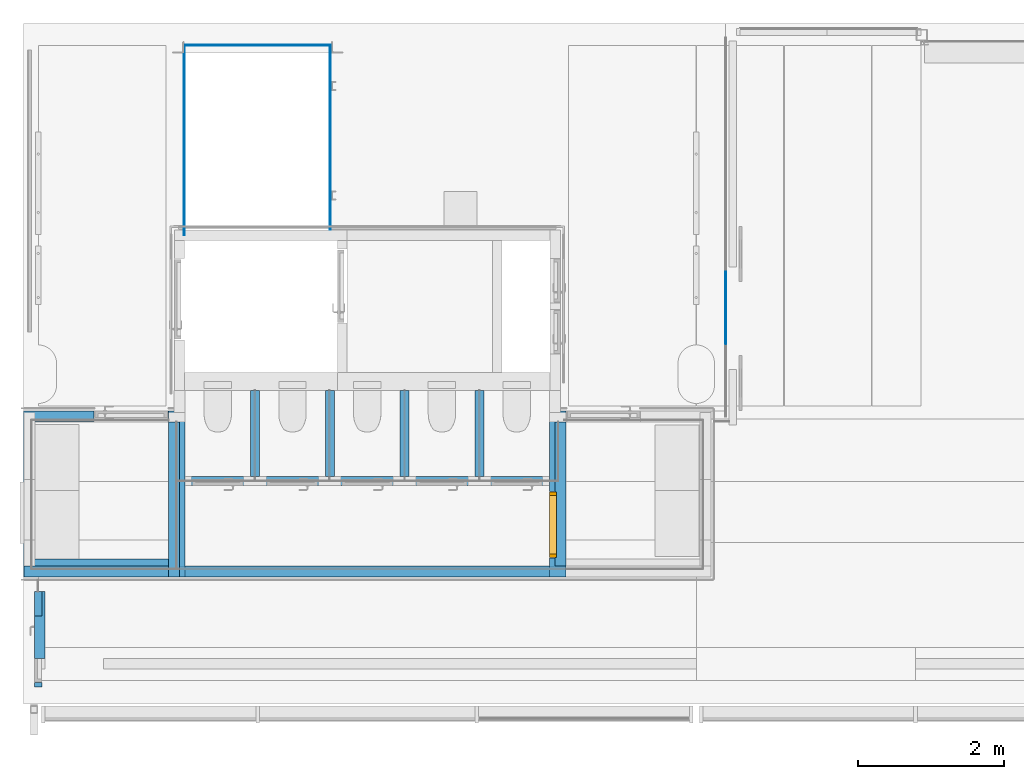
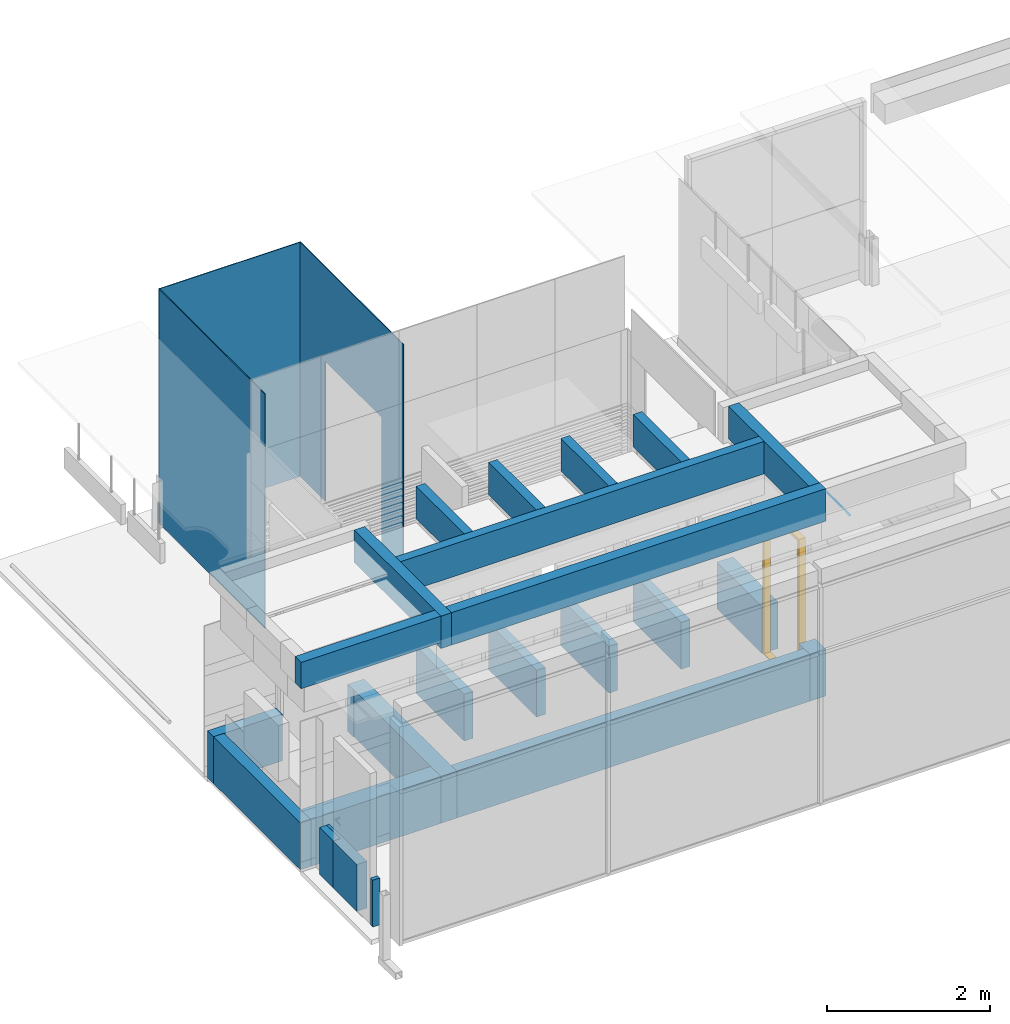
# One storey, part 14 of 26: 21 walls, 4 plates, 1 door, 4 openings, 4 elements without a shape of their own.
"""IFC2X3 building model written with IfcOpenShell, lengths in millimetres."""

import ifcopenshell
import ifcopenshell.guid

model = None  # the IFC model being written
_history = None  # IfcOwnerHistory: only IFC2X3 demands one
_inside = {}  # id of a spatial element -> (the spatial element, [elements in it])
_under = {}  # id of a project, library or spatial element -> (it, [spatial elements below it])
_declared = {}  # id of a project -> (the project, [libraries it declares])
_typed = {}  # id of a type object -> (the type object, [elements of that type])
_made_of = {}  # id of a material, layer set ... -> (it, [elements and type objects made of it])


def new_model(schema):
    """Start an empty IFC model of exactly this schema.

    Asked for "IFC4X3", IfcOpenShell would pick the latest addendum, in which some entities
    have other attributes; the version numbers below select the first issue.
    IFC2X3 requires an IfcOwnerHistory on every rooted entity: one is made here for all.
    """
    global model, _history
    if schema == "IFC4X3":
        model = ifcopenshell.file(schema_version=(4, 3, 0, 0))
    else:
        model = ifcopenshell.file(schema=schema)
    _inside.clear()
    _under.clear()
    _declared.clear()
    _typed.clear()
    _made_of.clear()
    _history = None
    if model.schema == "IFC2X3":
        org = make("IfcOrganization", Name="unknown")
        user = make(
            "IfcPersonAndOrganization",
            ThePerson=make("IfcPerson", FamilyName="unknown"),
            TheOrganization=org,
        )
        app = make(
            "IfcApplication",
            ApplicationDeveloper=org,
            Version="unknown",
            ApplicationFullName="unknown",
            ApplicationIdentifier="unknown",
        )
        _history = make(
            "IfcOwnerHistory",
            OwningUser=user,
            OwningApplication=app,
            ChangeAction="ADDED",
            CreationDate=0,
        )
    return model


def make(cls, **values):
    """One entity of the class cls with the attributes given. An attribute that is None is left unset."""
    return model.create_entity(
        cls, **{name: value for name, value in values.items() if value is not None}
    )


def entity(cls, *values):
    """Any entity or typed value of the class cls, its attributes in the order of the schema. None: left unset."""
    e = model.create_entity(cls)
    for i, value in enumerate(values):
        if value is not None:
            e[i] = value
    return e


def rooted(cls, **values):
    """An entity with a GlobalId (a new one), such as an element, a storey or a relation."""
    return make(cls, GlobalId=ifcopenshell.guid.new(), OwnerHistory=_history, **values)


def si_unit(unit_type, name, prefix=None):
    """IfcSIUnit, for example si_unit("LENGTHUNIT", "METRE", prefix="MILLI")."""
    return make("IfcSIUnit", UnitType=unit_type, Prefix=prefix, Name=name)


def converted_unit(unit_type, name, factor, base, dimensions=None, offset=None):
    """IfcConversionBasedUnit, such as the inch: factor (a typed value) times the base unit."""
    return make(
        "IfcConversionBasedUnit"
        if offset is None
        else "IfcConversionBasedUnitWithOffset",
        ConversionOffset=offset,
        Dimensions=None
        if dimensions is None
        else entity("IfcDimensionalExponents", *dimensions),
        UnitType=unit_type,
        Name=name,
        ConversionFactor=make(
            "IfcMeasureWithUnit", ValueComponent=factor, UnitComponent=base
        ),
    )


def derived_unit(unit_type, elements):
    """IfcDerivedUnit: a product of units, each with its exponent."""
    return make(
        "IfcDerivedUnit",
        Elements=[
            make("IfcDerivedUnitElement", Unit=unit, Exponent=power)
            for unit, power in elements
        ],
        UnitType=unit_type,
    )


def assignment(units):
    """IfcUnitAssignment: the units of a project."""
    return None if units is None else make("IfcUnitAssignment", Units=units)


def point(xyz):
    """IfcCartesianPoint."""
    return None if xyz is None else make("IfcCartesianPoint", Coordinates=xyz)


def direction(xyz):
    """IfcDirection."""
    return None if xyz is None else make("IfcDirection", DirectionRatios=xyz)


def frame(location, z_axis=None, x_axis=None):
    """IfcAxis2Placement3D, a coordinate frame: its origin and axes. An axis left out is left unset."""
    return make(
        "IfcAxis2Placement3D",
        Location=point(location),
        Axis=direction(z_axis),
        RefDirection=direction(x_axis),
    )


def frame_2d(location, x_axis=None):
    """IfcAxis2Placement2D, a coordinate frame in the plane: its origin and x axis."""
    return make(
        "IfcAxis2Placement2D", Location=point(location), RefDirection=direction(x_axis)
    )


def origin():
    """The frame at (0, 0, 0) with its axes left unset."""
    return frame((0.0, 0.0, 0.0))


def origin_with_axes():
    """The frame at (0, 0, 0) with the z axis (0, 0, 1) and the x axis (1, 0, 0) written out."""
    return frame((0.0, 0.0, 0.0), z_axis=(0.0, 0.0, 1.0), x_axis=(1.0, 0.0, 0.0))


def place(relative_to, where):
    """IfcLocalPlacement: puts the frame where relative to a parent placement (None: the world)."""
    return make(
        "IfcLocalPlacement", PlacementRelTo=relative_to, RelativePlacement=where
    )


def context(
    kind, dimensions, precision=None, world=None, true_north=None, identifier=None
):
    """IfcGeometricRepresentationContext, for example the 3D "Model" context."""
    return make(
        "IfcGeometricRepresentationContext",
        ContextIdentifier=identifier,
        ContextType=kind,
        CoordinateSpaceDimension=dimensions,
        Precision=precision,
        WorldCoordinateSystem=world,
        TrueNorth=true_north,
    )


def subcontext(parent, identifier, kind, view, scale=None):
    """IfcGeometricRepresentationSubContext, for example "Body" below "Model"."""
    return make(
        "IfcGeometricRepresentationSubContext",
        ContextIdentifier=identifier,
        ContextType=kind,
        ParentContext=parent,
        TargetScale=scale,
        TargetView=view,
    )


def project(units=None, contexts=None):
    """IfcProject with its units and contexts."""
    return rooted(
        "IfcProject",
        Name="project",
        RepresentationContexts=contexts,
        UnitsInContext=assignment(units),
    )


def spatial(cls, under=None, at=None, **own):
    """A site, building, storey or space (cls), placed at a placement, below another one or the project."""
    s = rooted(cls, ObjectPlacement=at, **own)
    if under is not None:
        _under.setdefault(under.id(), (under, []))[1].append(s)
    return s


def polyline(points):
    """IfcPolyline through the points."""
    return make("IfcPolyline", Points=[point(p) for p in points])


def profile(cls, at=None, kind="AREA", **sizes):
    """A parametric profile (cls). Its sizes go by their IFC names, for example OverallWidth=200.0."""
    return make(cls, ProfileType=kind, Position=at, **sizes)


def rectangle(**sizes):
    """IfcRectangleProfileDef."""
    return profile("IfcRectangleProfileDef", **sizes)


def outline(outer, holes=None, kind="AREA"):
    """IfcArbitraryClosedProfileDef: a profile drawn as a closed curve; with holes, ...WithVoids."""
    if holes is None:
        return make("IfcArbitraryClosedProfileDef", ProfileType=kind, OuterCurve=outer)
    return make(
        "IfcArbitraryProfileDefWithVoids",
        ProfileType=kind,
        OuterCurve=outer,
        InnerCurves=holes,
    )


def extrude(swept, where, along, depth):
    """IfcExtrudedAreaSolid: the profile swept, set in the frame where, extruded along a direction by depth."""
    return make(
        "IfcExtrudedAreaSolid",
        SweptArea=swept,
        Position=where,
        ExtrudedDirection=direction(along),
        Depth=depth,
    )


def clip(a, b, op="DIFFERENCE"):
    """IfcBooleanClippingResult: the solid a cut by the half space b."""
    return make(
        "IfcBooleanClippingResult", Operator=op, FirstOperand=a, SecondOperand=b
    )


def halfspace(plane, agree):
    """IfcHalfSpaceSolid: all space on one side of the plane z = 0 of the frame plane."""
    return make(
        "IfcHalfSpaceSolid",
        BaseSurface=make("IfcPlane", Position=plane),
        AgreementFlag=agree,
    )


def faces_of(points, faces, orient=None, outer=None):
    """IfcFace entities. A face is a list of loops; a loop is a list of indices into points, from 0.

    orient and outer hold one flag for each loop. By default every Orientation is true, the
    first loop of a face is its IfcFaceOuterBound and the others are IfcFaceBound.
    """
    made = []
    for i, loops in enumerate(faces):
        bounds = []
        for j, loop in enumerate(loops):
            is_outer = j == 0 if outer is None else outer[i][j]
            bounds.append(
                make(
                    "IfcFaceOuterBound" if is_outer else "IfcFaceBound",
                    Bound=make("IfcPolyLoop", Polygon=[points[k] for k in loop]),
                    Orientation=True if orient is None else orient[i][j],
                )
            )
        made.append(make("IfcFace", Bounds=bounds))
    return made


def face_set(faces, orient=None, outer=None):
    """The faces of one IfcConnectedFaceSet. surface_model builds it on its shared points."""
    return ("IfcConnectedFaceSet", faces, orient, outer)


def faceted_brep(points, faces, orient=None, outer=None, voids=None):
    """IfcFacetedBrep: a solid bounded by flat faces; with voids (closed shells), ...WithVoids."""
    shared = [point(p) for p in points]
    hull = make("IfcClosedShell", CfsFaces=faces_of(shared, faces, orient, outer))
    if voids is None:
        return make("IfcFacetedBrep", Outer=hull)
    return make(
        "IfcFacetedBrepWithVoids",
        Outer=hull,
        Voids=[
            make(cls, CfsFaces=faces_of(shared, fs, o, b)) for cls, fs, o, b in voids
        ],
    )


def surface_model(cls, points, shells):
    """IfcFaceBasedSurfaceModel or IfcShellBasedSurfaceModel (cls): surfaces that need not close."""
    shared = [point(p) for p in points]
    made = [make(c, CfsFaces=faces_of(shared, fs, o, b)) for c, fs, o, b in shells]
    if cls == "IfcFaceBasedSurfaceModel":
        return make(cls, FbsmFaces=made)
    return make(cls, SbsmBoundary=made)


def shape(context_of_items, identifier, shape_type, items):
    """IfcShapeRepresentation: the items that make up one representation, for example the "Body"."""
    return make(
        "IfcShapeRepresentation",
        ContextOfItems=context_of_items,
        RepresentationIdentifier=identifier,
        RepresentationType=shape_type,
        Items=items,
    )


def source(mapping_origin, context_of_items, identifier, shape_type, items):
    """IfcRepresentationMap: a shape defined once, which mapped items show again and again."""
    return make(
        "IfcRepresentationMap",
        MappingOrigin=mapping_origin,
        MappedRepresentation=shape(context_of_items, identifier, shape_type, items),
    )


def transform(
    local_origin,
    x_axis=None,
    y_axis=None,
    z_axis=None,
    scale=None,
    scale2=None,
    scale3=None,
    uniform=True,
):
    """IfcCartesianTransformationOperator3D, or its non-uniform kind. x_axis, y_axis, z_axis: its Axis1, 2, 3."""
    if uniform:
        return make(
            "IfcCartesianTransformationOperator3D",
            Axis1=direction(x_axis),
            Axis2=direction(y_axis),
            LocalOrigin=point(local_origin),
            Scale=scale,
            Axis3=direction(z_axis),
        )
    return make(
        "IfcCartesianTransformationOperator3DnonUniform",
        Axis1=direction(x_axis),
        Axis2=direction(y_axis),
        LocalOrigin=point(local_origin),
        Scale=scale,
        Axis3=direction(z_axis),
        Scale2=scale2,
        Scale3=scale3,
    )


def mapped(mapping_source, mapping_target):
    """IfcMappedItem: shows the shape of a source again, moved by a transform."""
    return make(
        "IfcMappedItem", MappingSource=mapping_source, MappingTarget=mapping_target
    )


def material(Name=None, Category=None):
    """IfcMaterial."""
    return make("IfcMaterial", Name=Name, Category=Category)


def material_list(materials):
    """IfcMaterialList."""
    return make("IfcMaterialList", Materials=materials)


def layer(
    of_material, thickness, ventilated=None, Name=None, Category=None, Priority=None
):
    """IfcMaterialLayer: one layer of a wall or slab, of a material (None: an air gap)."""
    return make(
        "IfcMaterialLayer",
        Material=of_material,
        LayerThickness=thickness,
        IsVentilated=ventilated,
        Name=Name,
        Category=Category,
        Priority=Priority,
    )


def layer_set(layers, Name=None):
    """IfcMaterialLayerSet."""
    return make("IfcMaterialLayerSet", MaterialLayers=layers, LayerSetName=Name)


def layer_usage(for_layer_set, set_direction, sense, offset, extent=None):
    """IfcMaterialLayerSetUsage: how a layer set lies in its element."""
    return make(
        "IfcMaterialLayerSetUsage",
        ForLayerSet=for_layer_set,
        LayerSetDirection=set_direction,
        DirectionSense=sense,
        OffsetFromReferenceLine=offset,
        ReferenceExtent=extent,
    )


def made_of(thing, what):
    """Note that an element or type object is made of a material, layer set ...; save() writes the relation."""
    if what is not None:
        _made_of.setdefault(what.id(), (what, []))[1].append(thing)
    return thing


def type_object(cls, material=None, **own):
    """A type object (cls), such as IfcWallType, which elements share."""
    return made_of(rooted(cls, **own), material)


def element(
    cls,
    number,
    at=None,
    inside=None,
    cuts=None,
    type_object=None,
    material=None,
    context=None,
    identifier="Body",
    shape_type=None,
    held_by="IfcProductDefinitionShape",
    body=None,
    shapes=None,
    **own,
):
    """One element of the class cls, such as IfcWall. Its Tag is "e" and its number.

    at: its placement. inside: the storey or other place that contains it. cuts: it is an
    opening in that element (IfcRelVoidsElement). A single representation is given by context,
    identifier, shape_type and body (its items); several are given by shapes. held_by: the class
    of the entity that holds the representations. save() writes the other relations.
    """
    e = rooted(cls, Tag="e%d" % number, ObjectPlacement=at, **own)
    if body is not None:
        shapes = [shape(context, identifier, shape_type, body)]
    if shapes is not None:
        e.Representation = make(held_by, Representations=shapes)
    if inside is not None:
        _inside.setdefault(inside.id(), (inside, []))[1].append(e)
    if cuts is not None:
        rooted(
            "IfcRelVoidsElement", RelatingBuildingElement=cuts, RelatedOpeningElement=e
        )
    if type_object is not None:
        _typed.setdefault(type_object.id(), (type_object, []))[1].append(e)
    return made_of(e, material)


def fill(opening, filler):
    """IfcRelFillsElement: the door or window that sits in an opening."""
    return rooted(
        "IfcRelFillsElement",
        RelatingOpeningElement=opening,
        RelatedBuildingElement=filler,
    )


def aggregate(whole, parts):
    """IfcRelAggregates: a whole, such as a stair, and the parts it consists of."""
    return rooted("IfcRelAggregates", RelatingObject=whole, RelatedObjects=parts)


def save(model, path):
    """Write the relations noted so far, then the file.

    IfcRelAggregates (storeys below a building ...), IfcRelContainedInSpatialStructure (elements
    in a storey), IfcRelDefinesByType, IfcRelAssociatesMaterial and IfcRelDeclares: one each for
    every whole, place, type object, material and project.
    """
    for whole, parts in _under.values():
        aggregate(whole, parts)
    for where, things in _inside.values():
        rooted(
            "IfcRelContainedInSpatialStructure",
            RelatedElements=things,
            RelatingStructure=where,
        )
    for kind, things in _typed.values():
        rooted("IfcRelDefinesByType", RelatedObjects=things, RelatingType=kind)
    for what, things in _made_of.values():
        rooted("IfcRelAssociatesMaterial", RelatedObjects=things, RelatingMaterial=what)
    for by, libraries in _declared.values():
        rooted("IfcRelDeclares", RelatingContext=by, RelatedDefinitions=libraries)
    model.write(path)


model = new_model("IFC2X3")

# Units and contexts
model_context = context("Model", 3, precision=0.01, world=frame((0.0, 4.29681676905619e-09, 0.0)), true_north=direction((4.01073788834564e-13, 1.0)))
plan_context = context("Plan", 3, precision=0.01, world=frame((0.0, 4.29681676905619e-09, 0.0)), true_north=direction((4.01073788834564e-13, 1.0)))
body_context = subcontext(model_context, "Body", "Model", "MODEL_VIEW")
ifc_project = project(units=[converted_unit("PLANEANGLEUNIT", "DEGREE", entity("IfcPositiveLengthMeasure", 0.0174532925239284), si_unit("PLANEANGLEUNIT", "RADIAN"), dimensions=[0, 0, 0, 0, 0, 0, 0]), si_unit("AREAUNIT", "SQUARE_METRE"), si_unit("LENGTHUNIT", "METRE", prefix="MILLI"), si_unit("MASSUNIT", "GRAM", prefix="KILO"), si_unit("POWERUNIT", "WATT"), si_unit("PRESSUREUNIT", "PASCAL", prefix="KILO"), si_unit("FORCEUNIT", "NEWTON", prefix="KILO"), si_unit("ELECTRICVOLTAGEUNIT", "VOLT"), si_unit("ELECTRICCURRENTUNIT", "AMPERE"), si_unit("THERMODYNAMICTEMPERATUREUNIT", "DEGREE_CELSIUS"), si_unit("TIMEUNIT", "SECOND"), si_unit("VOLUMEUNIT", "CUBIC_METRE"), derived_unit("LINEARVELOCITYUNIT", [(si_unit("LENGTHUNIT", "METRE"), 1), (si_unit("TIMEUNIT", "SECOND"), -1)]), derived_unit("VOLUMETRICFLOWRATEUNIT", [(si_unit("VOLUMEUNIT", "CUBIC_METRE"), 1), (si_unit("TIMEUNIT", "SECOND"), -1)]), derived_unit("THERMALTRANSMITTANCEUNIT", [(si_unit("POWERUNIT", "WATT"), 1), (si_unit("THERMODYNAMICTEMPERATUREUNIT", "KELVIN"), -1), (si_unit("AREAUNIT", "SQUARE_METRE"), -1)]), derived_unit("SOUNDPRESSUREUNIT", [(si_unit("PRESSUREUNIT", "PASCAL"), 1)])], contexts=[model_context, plan_context])

# Site, building, storey
site_placement = place(None, origin_with_axes())
site = spatial("IfcSite", under=ifc_project, at=site_placement, Name="ENGM", CompositionType="ELEMENT")
building_placement = place(site_placement, origin_with_axes())
building = spatial("IfcBuilding", under=site, at=building_placement, Name="TG", CompositionType="ELEMENT")
storey_placement = place(building_placement, frame((0.0, 0.0, 210200.0), z_axis=(0.0, 0.0, 1.0), x_axis=(1.0, 0.0, 0.0)))
storey = spatial("IfcBuildingStorey", under=building, at=storey_placement, Name="Nivå F - 0,7 m", CompositionType="ELEMENT", Elevation=210200.0)

# Curtain wall, plate
curtain_wall_type_1 = type_object("IfcCurtainWallType", Name="Curtain Wall:A242 - IGV - Glass - 10 mm", PredefinedType="NOTDEFINED")
curtain_wall_1_placement = place(storey_placement, frame((0.0, 0.0, -210200.0), z_axis=(0.0, 0.0, 1.0), x_axis=(1.0, 0.0, 0.0)))
curtain_wall_1 = element("IfcCurtainWall", 1, at=curtain_wall_1_placement, inside=storey, type_object=curtain_wall_type_1, Name="Curtain Wall:A242 - IGV - Glass - 10 mm", ObjectType="Curtain Wall:A242 - IGV - Glass - 10 mm")
ifc_material_1 = material(Name="Glass (Avinor)")
plate_type_1 = type_object("IfcPlateType", Name="System Panel:A245 - Glass - 10 mm", PredefinedType="CURTAIN_PANEL", material=ifc_material_1)
shared_shape_1 = source(origin(), body_context, "Body", "SurfaceModel", [
    surface_model("IfcFaceBasedSurfaceModel", [(510.0, 0.0, 0.0), (-510.0, 0.0, 0.0), (-510.0, 10.0, 0.0), (510.0, 10.0, 0.0), (-510.0, 0.0, 0.618453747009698), (510.0, 0.0, 0.618453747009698), (510.0, 10.0, 0.618453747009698), (-510.0, 10.0, 0.618453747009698)], [face_set([[[0, 1, 2, 3]], [[4, 5, 6, 7]]])]),
])
plate_1_placement = place(curtain_wall_1_placement, frame((331398.69226286, 463619.958333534, 210200.0), z_axis=(0.0, 0.0, 1.0), x_axis=(0.0, -1.0, 0.0)))
plate_1 = element("IfcPlate", 2, at=plate_1_placement, type_object=plate_type_1, material=ifc_material_1, Name="System Panel:A245 - Glass - 10 mm", ObjectType="System Panel:A245 - Glass - 10 mm", context=body_context, shape_type="MappedRepresentation", body=[
    mapped(shared_shape_1, transform((0.0, 0.0, 0.0), scale=1.0)),
])
aggregate(curtain_wall_1, [plate_1])

curtain_wall_type_2 = type_object("IfcCurtainWallType", Name="Curtain Wall:A242 - IGV - Glass - 12 mm", PredefinedType="NOTDEFINED")
curtain_wall_2_placement = place(storey_placement, frame((0.0, 0.0, -210200.0), z_axis=(0.0, 0.0, 1.0), x_axis=(1.0, 0.0, 0.0)))
curtain_wall_2 = element("IfcCurtainWall", 3, at=curtain_wall_2_placement, inside=storey, type_object=curtain_wall_type_2, Name="Curtain Wall:A242 - IGV - Glass - 12 mm", ObjectType="Curtain Wall:A242 - IGV - Glass - 12 mm")
plate_type_2 = type_object("IfcPlateType", Name="System Panel:A245 - Glass - 12 mm", PredefinedType="CURTAIN_PANEL", material=ifc_material_1)
plate_2_placement = place(curtain_wall_2_placement, frame((326001.15848164, 465940.371435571, 210200.0), z_axis=(0.0, 0.0, 1.0), x_axis=(0.0, 1.0, 0.0)))
plate_2 = element("IfcPlate", 4, at=plate_2_placement, type_object=plate_type_2, Name="System Panel:A245 - Glass - 12 mm", ObjectType="System Panel:A245 - Glass - 12 mm", context=body_context, shape_type="Brep", body=[
    faceted_brep([(-735.45893558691, 0.0, 3500.0), (-735.45893558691, 12.0, 3500.0), (643.103564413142, 12.0, 3500.0), (643.103564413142, 0.0, 3500.0), (-735.45893558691, 0.0, 0.0), (-735.45893558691, 12.0, 0.0), (-1266.62143550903, 12.0, 0.0), (-1266.62143550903, 0.0, 0.0), (-1266.62143550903, 12.0, 3500.0), (-1266.62143550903, 0.0, 3500.0), (1266.62143550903, 0.0, 3500.0), (1266.62143550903, 12.0, 3500.0), (1266.62143550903, 12.0, 0.0), (1266.62143550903, 0.0, 0.0), (643.103564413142, 12.0, 0.0), (643.103564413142, 0.0, 0.0), (643.103564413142, 12.0, 2090.00000000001), (643.103564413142, 0.0, 2090.00000000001), (-735.45893558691, 12.0, 2090.00000000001), (-735.45893558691, 0.0, 2090.00000000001)], [[[0, 1, 2, 3]], [[4, 5, 6, 7]], [[8, 9, 7, 6]], [[10, 11, 12, 13]], [[13, 12, 14, 15]], [[15, 14, 16, 17]], [[17, 16, 18, 19]], [[19, 18, 5, 4]], [[9, 10, 13, 15, 17, 19, 4, 7]], [[11, 8, 6, 5, 18, 16, 14, 12]], [[11, 10, 3, 2]], [[9, 8, 1, 0]]], orient=[[False], [False], [False], [False], [False], [False], [False], [False], [False], [False], [False], [False]]),
])
aggregate(curtain_wall_2, [plate_2])

curtain_wall_3_placement = place(storey_placement, frame((0.0, 0.0, -210200.0), z_axis=(0.0, 0.0, 1.0), x_axis=(1.0, 0.0, 0.0)))
curtain_wall_3 = element("IfcCurtainWall", 5, at=curtain_wall_3_placement, inside=storey, type_object=curtain_wall_type_2, Name="Curtain Wall:A242 - IGV - Glass - 12 mm", ObjectType="Curtain Wall:A242 - IGV - Glass - 12 mm")
plate_type_3 = type_object("IfcPlateType", Name="System Panel:A245 - Glass - 12 mm", PredefinedType="CURTAIN_PANEL", material=ifc_material_1)
plate_3_placement = place(curtain_wall_3_placement, frame((323992.849999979, 465904.74643557, 210200.0), z_axis=(0.0, 0.0, 1.0), x_axis=(0.0, 1.0, 0.0)))
plate_3 = element("IfcPlate", 6, at=plate_3_placement, type_object=plate_type_3, Name="System Panel:A245 - Glass - 12 mm", ObjectType="System Panel:A245 - Glass - 12 mm", context=body_context, shape_type="Brep", body=[
    faceted_brep([(-1302.24643553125, -12.0, 3500.0), (1302.24643553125, -12.0, 3500.0), (1302.24643553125, -12.0, 0.0), (-1302.24643553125, -12.0, 0.0), (1302.24643553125, 0.0, 3500.0), (1302.24643553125, 0.0, 0.0), (-1302.24643553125, 0.0, 3500.0), (-1302.24643553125, 0.0, 0.0)], [[[0, 1, 2, 3]], [[1, 4, 5, 2]], [[4, 6, 7, 5]], [[6, 0, 3, 7]], [[3, 2, 5, 7]], [[6, 4, 1, 0]]], orient=[[False], [False], [False], [False], [False], [False]]),
])
aggregate(curtain_wall_3, [plate_3])

curtain_wall_4_placement = place(storey_placement, frame((0.0, 0.0, -210200.0), z_axis=(0.0, 0.0, 1.0), x_axis=(1.0, 0.0, 0.0)))
curtain_wall_4 = element("IfcCurtainWall", 7, at=curtain_wall_4_placement, inside=storey, type_object=curtain_wall_type_2, Name="Curtain Wall:A242 - IGV - Glass - 12 mm", ObjectType="Curtain Wall:A242 - IGV - Glass - 12 mm")
plate_type_4 = type_object("IfcPlateType", Name="System Panel:A245 - Glass - 12 mm", PredefinedType="CURTAIN_PANEL", material=ifc_material_1)
plate_4_placement = place(curtain_wall_4_placement, frame((324997.004240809, 467206.992871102, 210200.0), z_axis=(0.0, 0.0, 1.0), x_axis=(1.0, 0.0, 0.0)))
plate_4 = element("IfcPlate", 8, at=plate_4_placement, type_object=plate_type_4, Name="System Panel:A245 - Glass - 12 mm", ObjectType="System Panel:A245 - Glass - 12 mm", context=body_context, shape_type="Brep", body=[
    faceted_brep([(-1004.15424083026, -12.0, 3500.0), (1004.15424083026, -12.0, 3500.0), (1004.15424083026, -12.0, 0.0), (-1004.15424083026, -12.0, 0.0), (1004.15424083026, 0.0, 3500.0), (1004.15424083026, 0.0, 0.0), (-1004.15424083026, 0.0, 3500.0), (-1004.15424083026, 0.0, 0.0)], [[[0, 1, 2, 3]], [[1, 4, 5, 2]], [[4, 6, 7, 5]], [[6, 0, 3, 7]], [[3, 2, 5, 7]], [[6, 4, 1, 0]]], orient=[[False], [False], [False], [False], [False], [False]]),
])
aggregate(curtain_wall_4, [plate_4])

# Wall
ifc_material_2 = material(Name="Plate - Gips")
ifc_layer_1 = layer(ifc_material_2, 12.5)
ifc_layer_2 = layer(ifc_material_2, 12.5)
ifc_material_3 = material(Name="_NSW Stålstender, uisolert")
ifc_layer_3 = layer(ifc_material_3, 200.0)
ifc_layer_4 = layer(ifc_material_2, 12.5)
ifc_layer_5 = layer(ifc_material_2, 12.5)
ifc_layer_set_1 = layer_set([ifc_layer_1, ifc_layer_2, ifc_layer_3, ifc_layer_4, ifc_layer_5], Name="Basic Wall:A241 - Eksisterende - GSVS-50")
ifc_layer_usage_1 = layer_usage(ifc_layer_set_1, "AXIS2", "NEGATIVE", 125.0)
wall_type_1 = type_object("IfcWallType", Name="Basic Wall:A241 - Eksisterende - GSVS-50", PredefinedType="STANDARD", material=ifc_layer_set_1)
wall_1_placement = place(storey_placement, frame((323781.499999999, 460048.600000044, 0.0), z_axis=(0.0, 0.0, 1.0), x_axis=(-1.0, 0.0, 0.0)))
element("IfcWallStandardCase", 9, at=wall_1_placement, inside=storey, type_object=wall_type_1, material=ifc_layer_usage_1, Name="Basic Wall:A241 - Eksisterende - GSVS-50", ObjectType="Basic Wall:A241 - Eksisterende - GSVS-50", context=body_context, shape_type="Clipping", body=[
    clip(extrude(rectangle(XDim=1836.74999999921, YDim=250.000000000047, at=frame_2d((918.374999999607, -9.42179667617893e-12), x_axis=(-1.0, 0.0))), origin(), (0.0, 0.0, 1.0), 700.000000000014), halfspace(origin(), True)),
])

# Wall, opening
ifc_layer_6 = layer(ifc_material_2, 12.5)
ifc_layer_7 = layer(ifc_material_2, 12.5)
ifc_layer_8 = layer(ifc_material_3, 100.0)
ifc_layer_9 = layer(ifc_material_2, 12.5)
ifc_layer_10 = layer(ifc_material_2, 12.5)
ifc_layer_set_2 = layer_set([ifc_layer_6, ifc_layer_7, ifc_layer_8, ifc_layer_9, ifc_layer_10], Name="Basic Wall:A241 - Eksisterende - GSVS-30")
ifc_layer_usage_2 = layer_usage(ifc_layer_set_2, "AXIS2", "NEGATIVE", 75.0)
wall_type_2 = type_object("IfcWallType", Name="Basic Wall:A241 - Eksisterende - GSVS-30", PredefinedType="STANDARD", material=ifc_layer_set_2)
wall_2_placement = place(storey_placement, frame((321794.750000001, 462124.999999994, 0.0), z_axis=(0.0, 0.0, 1.0), x_axis=(1.0, 0.0, 0.0)))
wall_2 = element("IfcWallStandardCase", 10, at=wall_2_placement, inside=storey, type_object=wall_type_2, material=ifc_layer_usage_2, Name="Basic Wall:A241 - Eksisterende - GSVS-30", ObjectType="Basic Wall:A241 - Eksisterende - GSVS-30", context=body_context, shape_type="Clipping", body=[
    clip(extrude(rectangle(XDim=1986.74999999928, YDim=150.000000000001, at=frame_2d((993.374999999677, -8.27000690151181e-11), x_axis=(1.0, 0.0))), origin(), (0.0, 0.0, 1.0), 700.000000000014), halfspace(origin(), True)),
])
opening_1_placement = place(wall_2_placement, frame((970.249999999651, -75.0, 0.0), z_axis=(0.0, 0.0, 1.0), x_axis=(1.0, 0.0, 0.0)))
element("IfcOpeningElement", 11, at=opening_1_placement, cuts=wall_2, Name="A20 - Slagdør - Enkel:A243 - DI_LTO - 0990 x 2240 mm:1", ObjectType="Opening", context=body_context, shape_type="SweptSolid", body=[
    extrude(rectangle(XDim=2259.99999999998, YDim=1010.0, at=frame_2d((1129.99999999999, 505.0), x_axis=(1.0, 0.0))), frame((0.0, 0.0, 0.0), z_axis=(0.0, 1.0, 0.0), x_axis=(0.0, 0.0, 1.0)), (0.0, 0.0, 1.0), 150.0),
])

# Walls
ifc_layer_usage_3 = layer_usage(ifc_layer_set_2, "AXIS2", "NEGATIVE", 75.0)
wall_3_placement = place(storey_placement, frame((321869.75, 459923.600000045, 0.0), z_axis=(0.0, 0.0, 1.0), x_axis=(0.0, 1.0, 0.0)))
element("IfcWallStandardCase", 12, at=wall_3_placement, inside=storey, type_object=wall_type_2, material=ifc_layer_usage_3, Name="Basic Wall:A241 - Eksisterende - GSVS-30", ObjectType="Basic Wall:A241 - Eksisterende - GSVS-30", context=body_context, shape_type="Clipping", body=[
    clip(extrude(rectangle(XDim=2126.39999994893, YDim=150.00000000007, at=frame_2d((1063.1999999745, -6.33733066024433e-11), x_axis=(-1.0, 0.0))), origin(), (0.0, 0.0, 1.0), 700.000000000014), halfspace(origin(), True)),
])
ifc_layer_usage_4 = layer_usage(ifc_layer_set_2, "AXIS2", "NEGATIVE", 75.0)
wall_4_placement = place(storey_placement, frame((324006.499999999, 459998.600000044, 0.0), z_axis=(0.0, 0.0, 1.0), x_axis=(1.0, 0.0, 0.0)))
element("IfcWallStandardCase", 13, at=wall_4_placement, inside=storey, type_object=wall_type_2, material=ifc_layer_usage_4, Name="Basic Wall:A241 - Eksisterende - GSVS-30", ObjectType="Basic Wall:A241 - Eksisterende - GSVS-30", context=body_context, shape_type="Clipping", body=[
    clip(extrude(rectangle(XDim=4987.00000000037, YDim=150.000000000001, at=frame_2d((2493.50000000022, -3.03188585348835e-11), x_axis=(-1.0, 0.0))), origin(), (0.0, 0.0, 1.0), 700.000000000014), halfspace(origin(), True)),
])

# Wall, opening, door
ifc_layer_11 = layer(ifc_material_2, 12.5)
ifc_layer_12 = layer(ifc_material_3, 200.0)
ifc_layer_13 = layer(ifc_material_2, 12.5)
ifc_layer_set_3 = layer_set([ifc_layer_11, ifc_layer_12, ifc_layer_13], Name="Basic Wall:A241 - Eksisterende - GRVR-30")
ifc_layer_usage_5 = layer_usage(ifc_layer_set_3, "AXIS2", "NEGATIVE", 112.5)
wall_type_3 = type_object("IfcWallType", Name="Basic Wall:A241 - Eksisterende - GRVR-30", PredefinedType="STANDARD", material=ifc_layer_set_3)
wall_5_placement = place(storey_placement, frame((329106.0, 459924.600000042, 0.0), z_axis=(0.0, 0.0, 1.0), x_axis=(0.0, 1.0, 0.0)))
wall_5 = element("IfcWallStandardCase", 14, at=wall_5_placement, inside=storey, type_object=wall_type_3, material=ifc_layer_usage_5, Name="Basic Wall:A241 - Eksisterende - GRVR-30", ObjectType="Basic Wall:A241 - Eksisterende - GRVR-30", context=body_context, shape_type="Clipping", body=[
    clip(extrude(rectangle(XDim=224.999999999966, YDim=2275.00000000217, at=frame_2d((1137.50000000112, -5.77671244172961e-12), x_axis=(0.0, -1.0))), origin(), (0.0, 0.0, 1.0), 700.000000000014), halfspace(origin(), True)),
])
opening_2_placement = place(wall_5_placement, frame((261.024999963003, -112.499999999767, 0.0), z_axis=(0.0, 0.0, 1.0), x_axis=(1.0, 0.0, 0.0)))
opening_2 = element("IfcOpeningElement", 15, at=opening_2_placement, cuts=wall_5, Name="A20 - Dørkarm - uten dørfløy:A243 - veggåpning med karm - 0890 x 2240 mm:1", ObjectType="Opening", context=body_context, shape_type="SweptSolid", body=[
    extrude(rectangle(XDim=2259.99999999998, YDim=910.0, at=frame_2d((1129.99999999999, 455.000000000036), x_axis=(1.0, 0.0))), frame((0.0, 0.0, 0.0), z_axis=(0.0, 1.0, 0.0), x_axis=(0.0, 0.0, 1.0)), (0.0, 0.0, 1.0), 225.0),
])
ifc_material_4 = material(Name="_NSW Dør - karm, hvit")
ifc_material_5 = material(Name="N_Door - Threshold")
ifc_material_list = material_list([ifc_material_4, ifc_material_5])
door_style = type_object("IfcDoorStyle", Name="A20 - Dørkarm - uten dørfløy:A243 - veggåpning med karm - 0890 x 2240 mm", ConstructionType="NOTDEFINED", OperationType="NOTDEFINED", ParameterTakesPrecedence=False, Sizeable=False, material=ifc_material_list)
shared_shape_2 = source(origin(), body_context, "Body", "SweptSolid", [
    extrude(outline(polyline([(-445.0, -1109.49999999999), (-403.0, -1109.49999999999), (-403.0, 1088.49999999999), (403.0, 1088.49999999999), (403.0, -1109.49999999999), (445.0, -1109.49999999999), (445.0, 1130.49999999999), (-445.0, 1130.49999999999), (-445.0, -1109.49999999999)])), frame((625.56877197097, 225.0, 1119.49999999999), z_axis=(0.0, -1.0, 0.0), x_axis=(1.0, 0.0, 0.0)), (0.0, 0.0, 1.0), 92.0),
    extrude(rectangle(XDim=91.9999999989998, YDim=805.999999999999, at=frame_2d((3.5527136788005e-15, 0.0), x_axis=(1.0, 0.0))), frame((625.56877197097, 179.0, 10.0), z_axis=(0.0, 0.0, 1.0), x_axis=(0.0, 1.0, 0.0)), (0.0, 0.0, 1.0), 20.0000000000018),
])
door_placement = place(opening_2_placement, frame((-170.568771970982, 0.0, 0.0), z_axis=(0.0, 0.0, 1.0), x_axis=(1.0, 0.0, 0.0)))
door = element("IfcDoor", 16, at=door_placement, inside=storey, type_object=door_style, material=ifc_material_list, Name="A20 - Dørkarm - uten dørfløy:A243 - veggåpning med karm - 0890 x 2240 mm", ObjectType="A20 - Dørkarm - uten dørfløy:A243 - veggåpning med karm - 0890 x 2240 mm", OverallHeight=2259.99999999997, OverallWidth=910.000000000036, context=body_context, shape_type="MappedRepresentation", body=[
    mapped(shared_shape_2, transform((0.0, 0.0, 0.0), scale=1.0)),
])
fill(opening_2, door)

# Walls
ifc_layer_usage_6 = layer_usage(ifc_layer_set_3, "AXIS2", "NEGATIVE", 112.5)
wall_6_placement = place(storey_placement, frame((323894.0, 462199.999999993, 0.0), z_axis=(0.0, 0.0, 1.0), x_axis=(0.0, -1.0, 0.0)))
element("IfcWallStandardCase", 17, at=wall_6_placement, inside=storey, type_object=wall_type_3, material=ifc_layer_usage_6, Name="Basic Wall:A241 - Eksisterende - GRVR-30", ObjectType="Basic Wall:A241 - Eksisterende - GRVR-30", context=body_context, shape_type="Clipping", body=[
    clip(extrude(rectangle(XDim=2276.39999994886, YDim=224.999999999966, at=frame_2d((1138.19999997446, -5.12230258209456e-11), x_axis=(-1.0, 0.0))), origin(), (0.0, 0.0, 1.0), 700.000000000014), halfspace(origin(), True)),
])
ifc_layer_14 = layer(ifc_material_2, 12.5)
ifc_layer_15 = layer(ifc_material_3, 100.0)
ifc_layer_16 = layer(ifc_material_2, 12.5)
ifc_layer_set_4 = layer_set([ifc_layer_14, ifc_layer_15, ifc_layer_16], Name="Basic Wall:A241 - Eksisterende - GRVR-20")
ifc_layer_usage_7 = layer_usage(ifc_layer_set_4, "AXIS2", "NEGATIVE", 62.5)
wall_type_4 = type_object("IfcWallType", Name="Basic Wall:A241 - Eksisterende - GRVR-20", PredefinedType="STANDARD", material=ifc_layer_set_4)
wall_7_placement = place(storey_placement, frame((325988.0, 462478.750000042, 0.0), z_axis=(0.0, 0.0, 1.0), x_axis=(0.0, -1.0, 0.0)))
element("IfcWallStandardCase", 18, at=wall_7_placement, inside=storey, type_object=wall_type_4, material=ifc_layer_usage_7, Name="Basic Wall:A241 - Eksisterende - GRVR-20", ObjectType="Basic Wall:A241 - Eksisterende - GRVR-20", context=body_context, shape_type="Clipping", body=[
    clip(extrude(rectangle(XDim=1177.28749999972, YDim=124.999999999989, at=frame_2d((588.643749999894, 3.46496165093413e-11), x_axis=(-1.0, 0.0))), origin(), (0.0, 0.0, 1.0), 700.000000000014), halfspace(origin(), True)),
])
ifc_layer_usage_8 = layer_usage(ifc_layer_set_4, "AXIS2", "NEGATIVE", 62.5)
wall_8_placement = place(storey_placement, frame((327010.0, 462478.750000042, 0.0), z_axis=(0.0, 0.0, 1.0), x_axis=(0.0, -1.0, 0.0)))
element("IfcWallStandardCase", 19, at=wall_8_placement, inside=storey, type_object=wall_type_4, material=ifc_layer_usage_8, Name="Basic Wall:A241 - Eksisterende - GRVR-20", ObjectType="Basic Wall:A241 - Eksisterende - GRVR-20", context=body_context, shape_type="Clipping", body=[
    clip(extrude(rectangle(XDim=1177.28749999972, YDim=124.999999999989, at=frame_2d((588.643749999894, 3.46496165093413e-11), x_axis=(-1.0, 0.0))), origin(), (0.0, 0.0, 1.0), 700.000000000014), halfspace(origin(), True)),
])
ifc_layer_usage_9 = layer_usage(ifc_layer_set_4, "AXIS2", "NEGATIVE", 62.5)
wall_9_placement = place(storey_placement, frame((328033.0, 462478.750000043, 0.0), z_axis=(0.0, 0.0, 1.0), x_axis=(0.0, -1.0, 0.0)))
element("IfcWallStandardCase", 20, at=wall_9_placement, inside=storey, type_object=wall_type_4, material=ifc_layer_usage_9, Name="Basic Wall:A241 - Eksisterende - GRVR-20", ObjectType="Basic Wall:A241 - Eksisterende - GRVR-20", context=body_context, shape_type="Clipping", body=[
    clip(extrude(rectangle(XDim=1177.28749999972, YDim=124.999999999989, at=frame_2d((588.643749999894, 3.46496165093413e-11), x_axis=(-1.0, 0.0))), origin(), (0.0, 0.0, 1.0), 700.000000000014), halfspace(origin(), True)),
])
ifc_layer_usage_10 = layer_usage(ifc_layer_set_4, "AXIS2", "NEGATIVE", 62.5)
wall_10_placement = place(storey_placement, frame((324966.0, 462478.750000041, 0.0), z_axis=(0.0, 0.0, 1.0), x_axis=(0.0, -1.0, 0.0)))
element("IfcWallStandardCase", 21, at=wall_10_placement, inside=storey, type_object=wall_type_4, material=ifc_layer_usage_10, Name="Basic Wall:A241 - Eksisterende - GRVR-20", ObjectType="Basic Wall:A241 - Eksisterende - GRVR-20", context=body_context, shape_type="Clipping", body=[
    clip(extrude(rectangle(XDim=1177.28749999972, YDim=124.999999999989, at=frame_2d((588.643749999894, 3.46496165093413e-11), x_axis=(-1.0, 0.0))), origin(), (0.0, 0.0, 1.0), 700.000000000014), halfspace(origin(), True)),
])

# Wall, opening
ifc_layer_17 = layer(ifc_material_2, 12.5)
ifc_layer_18 = layer(ifc_material_3, 75.0)
ifc_layer_19 = layer(ifc_material_2, 12.5)
ifc_layer_set_5 = layer_set([ifc_layer_17, ifc_layer_18, ifc_layer_19], Name="Basic Wall:A241 - SVS-75")
ifc_layer_usage_11 = layer_usage(ifc_layer_set_5, "AXIS2", "NEGATIVE", 50.0)
wall_type_5 = type_object("IfcWallType", Name="Basic Wall:A241 - SVS-75", PredefinedType="STANDARD", material=ifc_layer_set_5)
wall_11_placement = place(storey_placement, frame((322000.000000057, 458424.499999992, 0.0), z_axis=(0.0, 0.0, 1.0), x_axis=(0.0, 1.0, 0.0)))
wall_11 = element("IfcWallStandardCase", 22, at=wall_11_placement, inside=storey, type_object=wall_type_5, material=ifc_layer_usage_11, Name="Basic Wall:A241 - SVS-75", ObjectType="Basic Wall:A241 - SVS-75", context=body_context, shape_type="Clipping", body=[
    clip(extrude(rectangle(XDim=99.9999999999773, YDim=1302.43092487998, at=frame_2d((651.215462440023, 2.8190783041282e-11), x_axis=(0.0, -1.0))), origin(), (0.0, 0.0, 1.0), 700.000000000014), halfspace(origin(), True)),
])
opening_3_placement = place(wall_11_placement, frame((57.6375000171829, -50.0, 0.0), z_axis=(0.0, 0.0, 1.0), x_axis=(1.0, 0.0, 0.0)))
element("IfcOpeningElement", 23, at=opening_3_placement, cuts=wall_11, Name="A20 - Slagdør - Enkel:A243 - DI_LTO - 0890 x 2240 mm:1", ObjectType="Opening", context=body_context, shape_type="SweptSolid", body=[
    extrude(rectangle(XDim=2259.99999999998, YDim=910.000000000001, at=frame_2d((1129.99999999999, 455.0), x_axis=(1.0, 0.0))), frame((0.0, 0.0, 0.0), z_axis=(0.0, 1.0, 0.0), x_axis=(0.0, 0.0, 1.0)), (0.0, 0.0, 1.0), 100.0),
])

# Walls
ifc_layer_20 = layer(ifc_material_2, 12.5)
ifc_layer_21 = layer(ifc_material_3, 100.0)
ifc_layer_22 = layer(ifc_material_2, 12.5)
ifc_layer_set_6 = layer_set([ifc_layer_20, ifc_layer_21, ifc_layer_22], Name="Basic Wall:A241 - Skjørt - SVS-100 S")
ifc_layer_usage_12 = layer_usage(ifc_layer_set_6, "AXIS2", "POSITIVE", -62.5)
wall_type_6 = type_object("IfcWallType", Name="Basic Wall:A241 - Skjørt - SVS-100 S", PredefinedType="STANDARD", material=ifc_layer_set_6)
wall_12_placement = place(storey_placement, frame((329068.500000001, 461239.999999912, 2610.0), z_axis=(0.0, 0.0, 1.0), x_axis=(-1.0, 0.0, 0.0)))
element("IfcWallStandardCase", 24, at=wall_12_placement, inside=storey, type_object=wall_type_6, material=ifc_layer_usage_12, Name="Basic Wall:A241 - Skjørt - SVS-100 S", ObjectType="Basic Wall:A241 - Skjørt - SVS-100 S", context=body_context, shape_type="SweptSolid", body=[
    extrude(rectangle(XDim=5137.00000000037, YDim=124.999999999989, at=frame_2d((2568.50000000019, 4.77875516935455e-11), x_axis=(-1.0, 0.0))), origin(), (0.0, 0.0, 1.0), 484.999999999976),
])
ifc_layer_usage_13 = layer_usage(ifc_layer_set_6, "AXIS2", "POSITIVE", -62.5)
wall_13_placement = place(storey_placement, frame((328033.0, 461302.499999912, 2610.0), z_axis=(0.0, 0.0, 1.0), x_axis=(0.0, 1.0, 0.0)))
element("IfcWallStandardCase", 25, at=wall_13_placement, inside=storey, type_object=wall_type_6, material=ifc_layer_usage_13, Name="Basic Wall:A241 - Skjørt - SVS-100 S", ObjectType="Basic Wall:A241 - Skjørt - SVS-100 S", context=body_context, shape_type="SweptSolid", body=[
    extrude(rectangle(XDim=1175.21850142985, YDim=124.999999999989, at=frame_2d((587.609250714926, 3.75273145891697e-11), x_axis=(-1.0, 0.0))), origin(), (0.0, 0.0, 1.0), 484.999999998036),
])
ifc_layer_usage_14 = layer_usage(ifc_layer_set_6, "AXIS2", "POSITIVE", -62.5)
wall_14_placement = place(storey_placement, frame((327010.0, 461302.499999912, 2610.0), z_axis=(0.0, 0.0, 1.0), x_axis=(0.0, 1.0, 0.0)))
element("IfcWallStandardCase", 26, at=wall_14_placement, inside=storey, type_object=wall_type_6, material=ifc_layer_usage_14, Name="Basic Wall:A241 - Skjørt - SVS-100 S", ObjectType="Basic Wall:A241 - Skjørt - SVS-100 S", context=body_context, shape_type="SweptSolid", body=[
    extrude(rectangle(XDim=1175.21850142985, YDim=124.999999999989, at=frame_2d((587.609250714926, 3.75273145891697e-11), x_axis=(-1.0, 0.0))), origin(), (0.0, 0.0, 1.0), 484.999999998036),
])
ifc_layer_usage_15 = layer_usage(ifc_layer_set_6, "AXIS2", "POSITIVE", -62.5)
wall_15_placement = place(storey_placement, frame((325988.0, 461302.499999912, 2610.0), z_axis=(0.0, 0.0, 1.0), x_axis=(0.0, 1.0, 0.0)))
element("IfcWallStandardCase", 27, at=wall_15_placement, inside=storey, type_object=wall_type_6, material=ifc_layer_usage_15, Name="Basic Wall:A241 - Skjørt - SVS-100 S", ObjectType="Basic Wall:A241 - Skjørt - SVS-100 S", context=body_context, shape_type="SweptSolid", body=[
    extrude(rectangle(XDim=1175.21850142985, YDim=124.999999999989, at=frame_2d((587.609250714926, 3.75273145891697e-11), x_axis=(-1.0, 0.0))), origin(), (0.0, 0.0, 1.0), 484.999999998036),
])
ifc_layer_usage_16 = layer_usage(ifc_layer_set_6, "AXIS2", "POSITIVE", -62.5)
wall_16_placement = place(storey_placement, frame((324966.0, 461302.499999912, 2610.0), z_axis=(0.0, 0.0, 1.0), x_axis=(0.0, 1.0, 0.0)))
element("IfcWallStandardCase", 28, at=wall_16_placement, inside=storey, type_object=wall_type_6, material=ifc_layer_usage_16, Name="Basic Wall:A241 - Skjørt - SVS-100 S", ObjectType="Basic Wall:A241 - Skjørt - SVS-100 S", context=body_context, shape_type="SweptSolid", body=[
    extrude(rectangle(XDim=1175.21850142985, YDim=124.999999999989, at=frame_2d((587.609250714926, 3.75273145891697e-11), x_axis=(-1.0, 0.0))), origin(), (0.0, 0.0, 1.0), 484.999999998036),
])
ifc_layer_23 = layer(ifc_material_2, 12.5)
ifc_layer_24 = layer(ifc_material_2, 12.5)
ifc_layer_25 = layer(ifc_material_3, 100.0)
ifc_layer_26 = layer(ifc_material_2, 12.5)
ifc_layer_27 = layer(ifc_material_2, 12.5)
ifc_layer_set_7 = layer_set([ifc_layer_23, ifc_layer_24, ifc_layer_25, ifc_layer_26, ifc_layer_27], Name="Basic Wall:A241 - Skjørt - SVS-101 S")
ifc_layer_usage_17 = layer_usage(ifc_layer_set_7, "AXIS2", "POSITIVE", -75.0)
wall_type_7 = type_object("IfcWallType", Name="Basic Wall:A241 - Skjørt - SVS-101 S", PredefinedType="STANDARD", material=ifc_layer_set_7)
wall_17_placement = place(storey_placement, frame((323781.5, 459999.999999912, 2700.0), z_axis=(0.0, 0.0, 1.0), x_axis=(-1.0, 0.0, 0.0)))
element("IfcWallStandardCase", 29, at=wall_17_placement, inside=storey, type_object=wall_type_7, material=ifc_layer_usage_17, Name="Basic Wall:A241 - Skjørt - SVS-101 S", ObjectType="Basic Wall:A241 - Skjørt - SVS-101 S", context=body_context, shape_type="SweptSolid", body=[
    extrude(rectangle(XDim=1976.4999999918, YDim=150.000000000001, at=frame_2d((988.249999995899, -2.97504243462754e-11), x_axis=(-1.0, 0.0))), origin(), (0.0, 0.0, 1.0), 394.999999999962),
])
ifc_layer_usage_18 = layer_usage(ifc_layer_set_7, "AXIS2", "POSITIVE", -75.0)
wall_18_placement = place(storey_placement, frame((329218.500000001, 459999.999999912, 2610.0), z_axis=(0.0, 0.0, 1.0), x_axis=(-1.0, 0.0, 0.0)))
element("IfcWallStandardCase", 30, at=wall_18_placement, inside=storey, type_object=wall_type_7, material=ifc_layer_usage_18, Name="Basic Wall:A241 - Skjørt - SVS-101 S", ObjectType="Basic Wall:A241 - Skjørt - SVS-101 S", context=body_context, shape_type="SweptSolid", body=[
    extrude(rectangle(XDim=5287.00000000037, YDim=150.000000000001, at=frame_2d((2643.50000000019, -2.15436557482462e-11), x_axis=(-1.0, 0.0))), origin(), (0.0, 0.0, 1.0), 484.999999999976),
])
ifc_layer_usage_19 = layer_usage(ifc_layer_set_7, "AXIS2", "POSITIVE", -75.0)
wall_19_placement = place(storey_placement, frame((323856.5, 459924.999999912, 2610.0), z_axis=(0.0, 0.0, 1.0), x_axis=(0.0, 1.0, 0.0)))
element("IfcWallStandardCase", 31, at=wall_19_placement, inside=storey, type_object=wall_type_7, material=ifc_layer_usage_19, Name="Basic Wall:A241 - Skjørt - SVS-101 S", ObjectType="Basic Wall:A241 - Skjørt - SVS-101 S", context=body_context, shape_type="SweptSolid", body=[
    extrude(rectangle(XDim=2123.60000017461, YDim=150.000000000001, at=frame_2d((1061.80000008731, -2.94591018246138e-11), x_axis=(-1.0, 0.0))), origin(), (0.0, 0.0, 1.0), 484.999999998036),
])
ifc_layer_usage_20 = layer_usage(ifc_layer_set_7, "AXIS2", "POSITIVE", -75.0)
wall_20_placement = place(storey_placement, frame((329143.500000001, 460074.999999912, 2610.0), z_axis=(0.0, 0.0, 1.0), x_axis=(0.0, 1.0, 0.0)))
element("IfcWallStandardCase", 32, at=wall_20_placement, inside=storey, type_object=wall_type_7, material=ifc_layer_usage_20, Name="Basic Wall:A241 - Skjørt - SVS-101 S", ObjectType="Basic Wall:A241 - Skjørt - SVS-101 S", context=body_context, shape_type="SweptSolid", body=[
    extrude(rectangle(XDim=1973.59999999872, YDim=150.000000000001, at=frame_2d((986.79999999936, -2.98214786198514e-11), x_axis=(-1.0, 0.0))), origin(), (0.0, 0.0, 1.0), 484.999999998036),
])

# Wall, opening
ifc_material_6 = material(Name="T2_Fibersement")
ifc_layer_28 = layer(ifc_material_6, 15.0)
ifc_layer_29 = layer(ifc_material_3, 100.0)
ifc_material_7 = material(Name="T2_X-finer")
ifc_layer_30 = layer(ifc_material_7, 12.0)
ifc_layer_31 = layer(ifc_material_6, 15.0)
ifc_layer_set_8 = layer_set([ifc_layer_28, ifc_layer_29, ifc_layer_30, ifc_layer_31], Name="Basic Wall:A241 - V2")
ifc_layer_usage_21 = layer_usage(ifc_layer_set_8, "AXIS2", "NEGATIVE", 71.0)
wall_type_8 = type_object("IfcWallType", Name="Basic Wall:A241 - V2", PredefinedType="STANDARD", material=ifc_layer_set_8)
wall_21_placement = place(storey_placement, frame((322021.000000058, 458811.999999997, 0.0), z_axis=(0.0, 0.0, 1.0), x_axis=(0.0, 1.0, 0.0)))
wall_21 = element("IfcWallStandardCase", 33, at=wall_21_placement, inside=storey, type_object=wall_type_8, material=ifc_layer_usage_21, Name="Basic Wall:A241 - V2", ObjectType="Basic Wall:A241 - V2", context=body_context, shape_type="Clipping", body=[
    clip(extrude(rectangle(XDim=142.000000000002, YDim=914.930924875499, at=frame_2d((457.46546243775, -3.46531692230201e-11), x_axis=(0.0, 1.0))), origin(), (0.0, 0.0, 1.0), 700.000000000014), halfspace(origin(), True)),
])
opening_4_placement = place(wall_21_placement, origin_with_axes())
element("IfcOpeningElement", 34, at=opening_4_placement, cuts=wall_21, Name="Basic Wall:A241 - V2", ObjectType="Opening", context=body_context, shape_type="SweptSolid", body=[
    extrude(rectangle(XDim=2250.00000000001, YDim=163.669075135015, at=frame_2d((0.0, 3.46744855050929e-11), x_axis=(0.0, 1.0))), frame((996.765462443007, -223.400000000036, 1125.0), z_axis=(0.0, 1.0, 0.0), x_axis=(-1.0, 0.0, 0.0)), (0.0, 0.0, 1.0), 446.800000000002),
])

save(model, "model.ifc")
